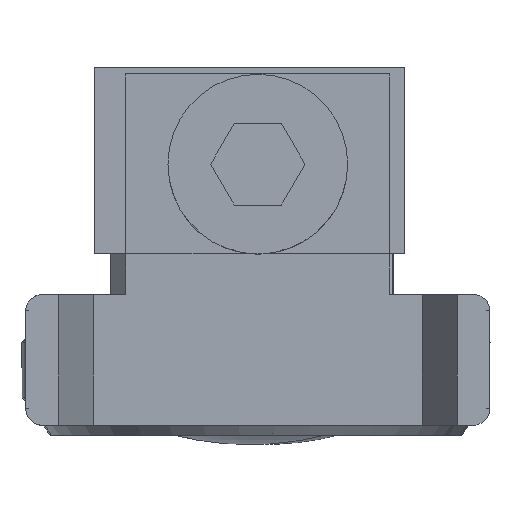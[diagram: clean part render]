
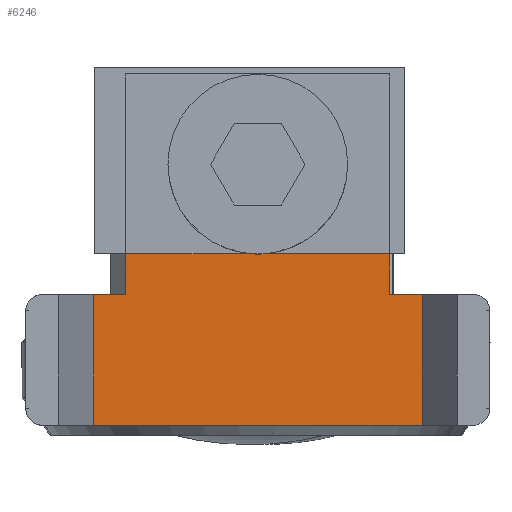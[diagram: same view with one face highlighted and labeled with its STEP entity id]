
A CAD part, left-side view. The second image highlights one B-rep face of the part: STEP entity #6246.
In plain terms, the highlighted planar face has unit normal (-1, 0, 0).
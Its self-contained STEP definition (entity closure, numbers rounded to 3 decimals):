
#50 = CARTESIAN_POINT ( 'NONE',  ( 4., 1.25, 0.234 ) ) ;
#156 = AXIS2_PLACEMENT_3D ( 'NONE', #1453, #1476, #5905 ) ;
#202 = ORIENTED_EDGE ( 'NONE', *, *, #6292, .T. ) ;
#223 = DIRECTION ( 'NONE',  ( 0., 0., 1. ) ) ;
#249 = VECTOR ( 'NONE', #1490, 1000. ) ;
#342 = CARTESIAN_POINT ( 'NONE',  ( 4., 0., -4.04 ) ) ;
#393 = LINE ( 'NONE', #5068, #2799 ) ;
#422 = DIRECTION ( 'NONE',  ( 0., 0., -1. ) ) ;
#498 = LINE ( 'NONE', #2050, #1971 ) ;
#516 = EDGE_CURVE ( 'NONE', #3240, #2396, #498, .T. ) ;
#582 = DIRECTION ( 'NONE',  ( 0., -1., 0. ) ) ;
#617 = ORIENTED_EDGE ( 'NONE', *, *, #4086, .F. ) ;
#625 = AXIS2_PLACEMENT_3D ( 'NONE', #2237, #4284, #223 ) ;
#785 = CARTESIAN_POINT ( 'NONE',  ( 4., 1.25, -0.234 ) ) ;
#908 = ORIENTED_EDGE ( 'NONE', *, *, #3915, .T. ) ;
#912 = CARTESIAN_POINT ( 'NONE',  ( 4., -4., -5.028 ) ) ;
#1031 = CIRCLE ( 'NONE', #156, 2.75 ) ;
#1172 = LINE ( 'NONE', #1840, #4523 ) ;
#1277 = VERTEX_POINT ( 'NONE', #4806 ) ;
#1305 = ORIENTED_EDGE ( 'NONE', *, *, #3149, .F. ) ;
#1308 = CARTESIAN_POINT ( 'NONE',  ( 4., 0., 0. ) ) ;
#1453 = CARTESIAN_POINT ( 'NONE',  ( 4., 3.99, 0. ) ) ;
#1476 = DIRECTION ( 'NONE',  ( -1., 0., 0. ) ) ;
#1490 = DIRECTION ( 'NONE',  ( 0., 0., -1. ) ) ;
#1679 = CARTESIAN_POINT ( 'NONE',  ( 4., -4., 5.028 ) ) ;
#1701 = CARTESIAN_POINT ( 'NONE',  ( 4., 0., -5.028 ) ) ;
#1708 = DIRECTION ( 'NONE',  ( 0., -1., 0. ) ) ;
#1840 = CARTESIAN_POINT ( 'NONE',  ( 4., -4., 0. ) ) ;
#1866 = EDGE_CURVE ( 'NONE', #6297, #2396, #1172, .T. ) ;
#1971 = VECTOR ( 'NONE', #2488, 1000. ) ;
#2003 = LINE ( 'NONE', #3372, #4710 ) ;
#2050 = CARTESIAN_POINT ( 'NONE',  ( 4., -4., 5.028 ) ) ;
#2178 = LINE ( 'NONE', #1308, #2345 ) ;
#2188 = LINE ( 'NONE', #4472, #249 ) ;
#2237 = CARTESIAN_POINT ( 'NONE',  ( 4., -4., -5.028 ) ) ;
#2276 = EDGE_CURVE ( 'NONE', #4677, #4700, #393, .T. ) ;
#2283 = EDGE_CURVE ( 'NONE', #4677, #4437, #5647, .T. ) ;
#2345 = VECTOR ( 'NONE', #6230, 1000. ) ;
#2352 = ORIENTED_EDGE ( 'NONE', *, *, #1866, .T. ) ;
#2396 = VERTEX_POINT ( 'NONE', #1679 ) ;
#2407 = EDGE_LOOP ( 'NONE', ( #5158, #4558, #3771, #617, #202, #908, #1305, #6162, #2352, #4135 ) ) ;
#2488 = DIRECTION ( 'NONE',  ( 0., -1., 0. ) ) ;
#2718 = VECTOR ( 'NONE', #582, 1000. ) ;
#2738 = EDGE_CURVE ( 'NONE', #3240, #4437, #2188, .T. ) ;
#2799 = VECTOR ( 'NONE', #6066, 1000. ) ;
#3002 = CARTESIAN_POINT ( 'NONE',  ( 4., 1.25, 4.04 ) ) ;
#3103 = VECTOR ( 'NONE', #3271, 1000. ) ;
#3149 = EDGE_CURVE ( 'NONE', #3686, #1277, #2178, .T. ) ;
#3240 = VERTEX_POINT ( 'NONE', #4197 ) ;
#3271 = DIRECTION ( 'NONE',  ( 0., -1., 0. ) ) ;
#3372 = CARTESIAN_POINT ( 'NONE',  ( 4., 1.25, -5.028 ) ) ;
#3686 = VERTEX_POINT ( 'NONE', #1701 ) ;
#3771 = ORIENTED_EDGE ( 'NONE', *, *, #2276, .T. ) ;
#3915 = EDGE_CURVE ( 'NONE', #5670, #1277, #5432, .T. ) ;
#4086 = EDGE_CURVE ( 'NONE', #4398, #4700, #1031, .T. ) ;
#4135 = ORIENTED_EDGE ( 'NONE', *, *, #516, .F. ) ;
#4197 = CARTESIAN_POINT ( 'NONE',  ( 4., 0., 5.028 ) ) ;
#4242 = EDGE_CURVE ( 'NONE', #3686, #6297, #4733, .T. ) ;
#4284 = DIRECTION ( 'NONE',  ( -1., 0., 0. ) ) ;
#4398 = VERTEX_POINT ( 'NONE', #785 ) ;
#4437 = VERTEX_POINT ( 'NONE', #5775 ) ;
#4472 = CARTESIAN_POINT ( 'NONE',  ( 4., 0., -5.028 ) ) ;
#4523 = VECTOR ( 'NONE', #5306, 1000. ) ;
#4558 = ORIENTED_EDGE ( 'NONE', *, *, #2283, .F. ) ;
#4677 = VERTEX_POINT ( 'NONE', #3002 ) ;
#4700 = VERTEX_POINT ( 'NONE', #50 ) ;
#4710 = VECTOR ( 'NONE', #422, 1000. ) ;
#4733 = LINE ( 'NONE', #5100, #5650 ) ;
#4806 = CARTESIAN_POINT ( 'NONE',  ( 4., 0., -4.04 ) ) ;
#5068 = CARTESIAN_POINT ( 'NONE',  ( 4., 1.25, -5.028 ) ) ;
#5100 = CARTESIAN_POINT ( 'NONE',  ( 4., -4., -5.028 ) ) ;
#5126 = CARTESIAN_POINT ( 'NONE',  ( 4., 0., 4.04 ) ) ;
#5158 = ORIENTED_EDGE ( 'NONE', *, *, #2738, .T. ) ;
#5212 = PLANE ( 'NONE',  #625 ) ;
#5306 = DIRECTION ( 'NONE',  ( 0., 0., 1. ) ) ;
#5432 = LINE ( 'NONE', #342, #3103 ) ;
#5647 = LINE ( 'NONE', #5126, #2718 ) ;
#5650 = VECTOR ( 'NONE', #1708, 1000. ) ;
#5670 = VERTEX_POINT ( 'NONE', #5789 ) ;
#5775 = CARTESIAN_POINT ( 'NONE',  ( 4., 0., 4.04 ) ) ;
#5789 = CARTESIAN_POINT ( 'NONE',  ( 4., 1.25, -4.04 ) ) ;
#5905 = DIRECTION ( 'NONE',  ( 0., 0., 1. ) ) ;
#6066 = DIRECTION ( 'NONE',  ( 0., 0., -1. ) ) ;
#6162 = ORIENTED_EDGE ( 'NONE', *, *, #4242, .T. ) ;
#6230 = DIRECTION ( 'NONE',  ( 0., 0., 1. ) ) ;
#6246 = ADVANCED_FACE ( 'NONE', ( #6334 ), #5212, .T. ) ;
#6292 = EDGE_CURVE ( 'NONE', #4398, #5670, #2003, .T. ) ;
#6297 = VERTEX_POINT ( 'NONE', #912 ) ;
#6334 = FACE_OUTER_BOUND ( 'NONE', #2407, .T. ) ;
